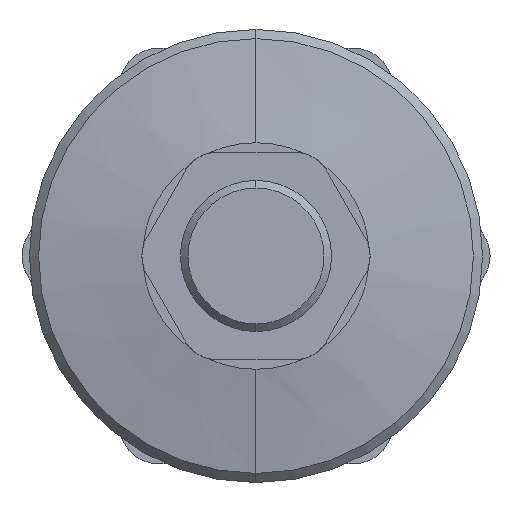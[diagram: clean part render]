
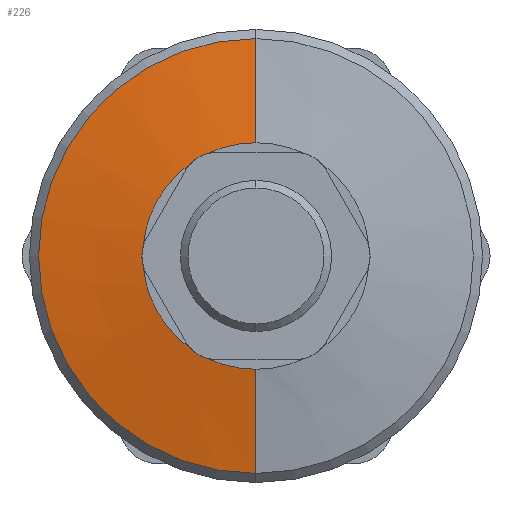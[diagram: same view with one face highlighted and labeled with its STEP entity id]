
A CAD part, left-side view. The second image highlights one B-rep face of the part: STEP entity #226.
In plain terms, the highlighted conical face has half-angle 80 degrees and reference radius 6 mm.
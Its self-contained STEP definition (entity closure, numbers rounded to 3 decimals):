
#10 = AXIS2_PLACEMENT_3D ( 'NONE', #1615, #677, #1776 ) ;
#12 = CARTESIAN_POINT ( 'NONE',  ( 13.8, 0., -3. ) ) ;
#78 = AXIS2_PLACEMENT_3D ( 'NONE', #634, #609, #605 ) ;
#94 = DIRECTION ( 'NONE',  ( 0., 0., 1. ) ) ;
#98 = VERTEX_POINT ( 'NONE', #1047 ) ;
#108 = VERTEX_POINT ( 'NONE', #160 ) ;
#132 = EDGE_LOOP ( 'NONE', ( #758, #1478, #693, #1263, #540, #487, #818, #618, #465, #350 ) ) ;
#160 = CARTESIAN_POINT ( 'NONE',  ( 13.8, 2.99, -0.247 ) ) ;
#162 = DIRECTION ( 'NONE',  ( 0., 0., 1. ) ) ;
#183 = EDGE_CURVE ( 'NONE', #305, #676, #1040, .T. ) ;
#188 = DIRECTION ( 'NONE',  ( -1., 0., 0. ) ) ;
#226 = ADVANCED_FACE ( 'NONE', ( #987 ), #514, .T. ) ;
#246 = CARTESIAN_POINT ( 'NONE',  ( 14.329, 0., -6. ) ) ;
#267 = DIRECTION ( 'NONE',  ( 1., 0., 0. ) ) ;
#303 = DIRECTION ( 'NONE',  ( -1., 0., 0. ) ) ;
#305 = VERTEX_POINT ( 'NONE', #809 ) ;
#322 = VERTEX_POINT ( 'NONE', #1698 ) ;
#350 = ORIENTED_EDGE ( 'NONE', *, *, #183, .F. ) ;
#370 = EDGE_CURVE ( 'NONE', #406, #108, #1217, .T. ) ;
#406 = VERTEX_POINT ( 'NONE', #1828 ) ;
#410 = DIRECTION ( 'NONE',  ( 0.174, 0., -0.985 ) ) ;
#412 = LINE ( 'NONE', #246, #1198 ) ;
#427 = CARTESIAN_POINT ( 'NONE',  ( 14.329, 0., 0. ) ) ;
#430 = CARTESIAN_POINT ( 'NONE',  ( 13.8, 1.708, -2.466 ) ) ;
#452 = DIRECTION ( 'NONE',  ( -1., 0., 0. ) ) ;
#463 = CARTESIAN_POINT ( 'NONE',  ( 13.8, 0., 0. ) ) ;
#465 = ORIENTED_EDGE ( 'NONE', *, *, #1176, .F. ) ;
#466 = EDGE_CURVE ( 'NONE', #108, #728, #1855, .T. ) ;
#487 = ORIENTED_EDGE ( 'NONE', *, *, #786, .F. ) ;
#493 = CARTESIAN_POINT ( 'NONE',  ( 13.8, 0., 0. ) ) ;
#511 = CARTESIAN_POINT ( 'NONE',  ( 14.286, 0., -5.757 ) ) ;
#514 = CONICAL_SURFACE ( 'NONE', #1633, 6., 1.396 ) ;
#540 = ORIENTED_EDGE ( 'NONE', *, *, #1275, .F. ) ;
#556 = AXIS2_PLACEMENT_3D ( 'NONE', #1621, #683, #1783 ) ;
#580 = DIRECTION ( 'NONE',  ( 0., 0., -1. ) ) ;
#603 = LINE ( 'NONE', #857, #974 ) ;
#605 = DIRECTION ( 'NONE',  ( 0., 0., 1. ) ) ;
#609 = DIRECTION ( 'NONE',  ( -1., 0., 0. ) ) ;
#618 = ORIENTED_EDGE ( 'NONE', *, *, #370, .F. ) ;
#623 = DIRECTION ( 'NONE',  ( 0., 0., 1. ) ) ;
#634 = CARTESIAN_POINT ( 'NONE',  ( 13.8, 0., 0. ) ) ;
#648 = VERTEX_POINT ( 'NONE', #1353 ) ;
#676 = VERTEX_POINT ( 'NONE', #892 ) ;
#677 = DIRECTION ( 'NONE',  ( -1., 0., 0. ) ) ;
#683 = DIRECTION ( 'NONE',  ( -1., 0., 0. ) ) ;
#693 = ORIENTED_EDGE ( 'NONE', *, *, #1796, .T. ) ;
#728 = VERTEX_POINT ( 'NONE', #430 ) ;
#758 = ORIENTED_EDGE ( 'NONE', *, *, #851, .F. ) ;
#786 = EDGE_CURVE ( 'NONE', #728, #98, #1149, .T. ) ;
#806 = AXIS2_PLACEMENT_3D ( 'NONE', #1982, #1038, #94 ) ;
#809 = CARTESIAN_POINT ( 'NONE',  ( 13.8, 1.281, 2.713 ) ) ;
#818 = ORIENTED_EDGE ( 'NONE', *, *, #466, .F. ) ;
#851 = EDGE_CURVE ( 'NONE', #322, #305, #1842, .T. ) ;
#857 = CARTESIAN_POINT ( 'NONE',  ( 14.329, 0., 6. ) ) ;
#865 = DIRECTION ( 'NONE',  ( 0.174, 0., 0.985 ) ) ;
#881 = VERTEX_POINT ( 'NONE', #12 ) ;
#892 = CARTESIAN_POINT ( 'NONE',  ( 13.8, 1.708, 2.466 ) ) ;
#907 = DIRECTION ( 'NONE',  ( 0., 0., 1. ) ) ;
#958 = AXIS2_PLACEMENT_3D ( 'NONE', #1390, #188, #162 ) ;
#974 = VECTOR ( 'NONE', #865, 1000. ) ;
#987 = FACE_OUTER_BOUND ( 'NONE', #132, .T. ) ;
#1008 = VERTEX_POINT ( 'NONE', #511 ) ;
#1038 = DIRECTION ( 'NONE',  ( -1., 0., 0. ) ) ;
#1040 = CIRCLE ( 'NONE', #1313, 3. ) ;
#1047 = CARTESIAN_POINT ( 'NONE',  ( 13.8, 1.281, -2.713 ) ) ;
#1055 = EDGE_CURVE ( 'NONE', #322, #648, #603, .T. ) ;
#1149 = CIRCLE ( 'NONE', #1299, 3. ) ;
#1158 = EDGE_CURVE ( 'NONE', #881, #1008, #412, .T. ) ;
#1176 = EDGE_CURVE ( 'NONE', #676, #406, #1612, .T. ) ;
#1198 = VECTOR ( 'NONE', #410, 1000. ) ;
#1217 = CIRCLE ( 'NONE', #958, 3. ) ;
#1263 = ORIENTED_EDGE ( 'NONE', *, *, #1158, .F. ) ;
#1275 = EDGE_CURVE ( 'NONE', #98, #881, #1414, .T. ) ;
#1299 = AXIS2_PLACEMENT_3D ( 'NONE', #1393, #452, #1555 ) ;
#1313 = AXIS2_PLACEMENT_3D ( 'NONE', #493, #303, #907 ) ;
#1353 = CARTESIAN_POINT ( 'NONE',  ( 14.286, 0., 5.757 ) ) ;
#1361 = CIRCLE ( 'NONE', #556, 5.757 ) ;
#1390 = CARTESIAN_POINT ( 'NONE',  ( 13.8, 0., 0. ) ) ;
#1393 = CARTESIAN_POINT ( 'NONE',  ( 13.8, 0., 0. ) ) ;
#1414 = CIRCLE ( 'NONE', #10, 3. ) ;
#1478 = ORIENTED_EDGE ( 'NONE', *, *, #1055, .T. ) ;
#1555 = DIRECTION ( 'NONE',  ( 0., 0., 1. ) ) ;
#1570 = DIRECTION ( 'NONE',  ( -1., 0., 0. ) ) ;
#1612 = CIRCLE ( 'NONE', #806, 3. ) ;
#1615 = CARTESIAN_POINT ( 'NONE',  ( 13.8, 0., 0. ) ) ;
#1618 = AXIS2_PLACEMENT_3D ( 'NONE', #463, #1570, #623 ) ;
#1621 = CARTESIAN_POINT ( 'NONE',  ( 14.286, 0., 0. ) ) ;
#1633 = AXIS2_PLACEMENT_3D ( 'NONE', #427, #267, #580 ) ;
#1698 = CARTESIAN_POINT ( 'NONE',  ( 13.8, 0., 3. ) ) ;
#1776 = DIRECTION ( 'NONE',  ( 0., 0., 1. ) ) ;
#1783 = DIRECTION ( 'NONE',  ( 0., 0., 1. ) ) ;
#1796 = EDGE_CURVE ( 'NONE', #648, #1008, #1361, .T. ) ;
#1828 = CARTESIAN_POINT ( 'NONE',  ( 13.8, 2.99, 0.247 ) ) ;
#1842 = CIRCLE ( 'NONE', #1618, 3. ) ;
#1855 = CIRCLE ( 'NONE', #78, 3. ) ;
#1982 = CARTESIAN_POINT ( 'NONE',  ( 13.8, 0., 0. ) ) ;
